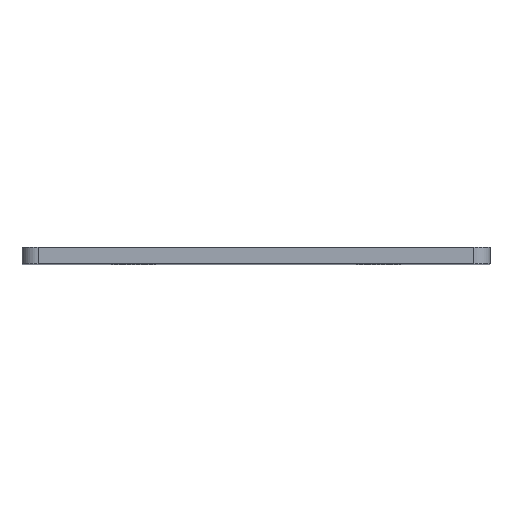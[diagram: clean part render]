
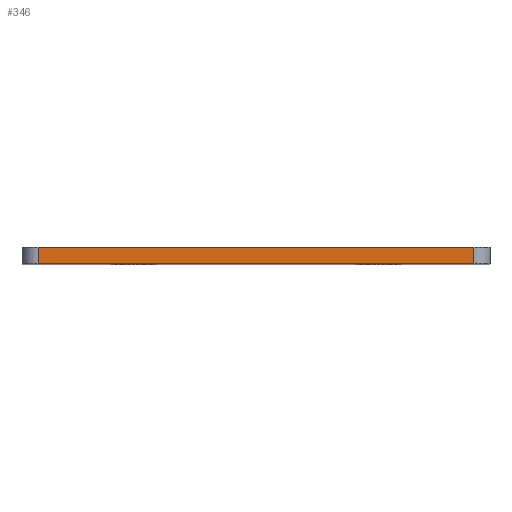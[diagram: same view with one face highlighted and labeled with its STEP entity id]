
A CAD part, top view. The second image highlights one B-rep face of the part: STEP entity #346.
In plain terms, the highlighted planar face has unit normal (0, 0, 1).
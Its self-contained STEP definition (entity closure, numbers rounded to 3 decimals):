
#12 = FACE_OUTER_BOUND ( 'NONE', #375, .T. ) ;
#46 = ORIENTED_EDGE ( 'NONE', *, *, #611, .T. ) ;
#58 = DIRECTION ( 'NONE',  ( 1., 0., 0. ) ) ;
#119 = ORIENTED_EDGE ( 'NONE', *, *, #283, .T. ) ;
#124 = CARTESIAN_POINT ( 'NONE',  ( -43., 0., 110.5 ) ) ;
#125 = CARTESIAN_POINT ( 'NONE',  ( -40., 3., 110.5 ) ) ;
#128 = LINE ( 'NONE', #124, #160 ) ;
#131 = VERTEX_POINT ( 'NONE', #618 ) ;
#156 = CARTESIAN_POINT ( 'NONE',  ( -43., 0., 110.5 ) ) ;
#160 = VECTOR ( 'NONE', #559, 1000. ) ;
#185 = CARTESIAN_POINT ( 'NONE',  ( -40., 0., 110.5 ) ) ;
#271 = DIRECTION ( 'NONE',  ( 0., 1., 0. ) ) ;
#283 = EDGE_CURVE ( 'NONE', #763, #311, #426, .T. ) ;
#311 = VERTEX_POINT ( 'NONE', #185 ) ;
#325 = DIRECTION ( 'NONE',  ( 0., -1., 0. ) ) ;
#346 = ADVANCED_FACE ( 'NONE', ( #12 ), #530, .T. ) ;
#354 = AXIS2_PLACEMENT_3D ( 'NONE', #156, #466, #588 ) ;
#360 = VECTOR ( 'NONE', #58, 1000. ) ;
#375 = EDGE_LOOP ( 'NONE', ( #382, #46, #770, #119 ) ) ;
#382 = ORIENTED_EDGE ( 'NONE', *, *, #498, .T. ) ;
#388 = CARTESIAN_POINT ( 'NONE',  ( 40., 0., 110.5 ) ) ;
#426 = LINE ( 'NONE', #701, #436 ) ;
#433 = CARTESIAN_POINT ( 'NONE',  ( 40., 0., 110.5 ) ) ;
#436 = VECTOR ( 'NONE', #325, 1000. ) ;
#466 = DIRECTION ( 'NONE',  ( 0., 0., 1. ) ) ;
#498 = EDGE_CURVE ( 'NONE', #311, #551, #128, .T. ) ;
#505 = EDGE_CURVE ( 'NONE', #763, #131, #565, .T. ) ;
#530 = PLANE ( 'NONE',  #354 ) ;
#551 = VERTEX_POINT ( 'NONE', #433 ) ;
#559 = DIRECTION ( 'NONE',  ( 1., 0., 0. ) ) ;
#565 = LINE ( 'NONE', #752, #360 ) ;
#588 = DIRECTION ( 'NONE',  ( 1., 0., 0. ) ) ;
#611 = EDGE_CURVE ( 'NONE', #551, #131, #713, .T. ) ;
#618 = CARTESIAN_POINT ( 'NONE',  ( 40., 3., 110.5 ) ) ;
#635 = VECTOR ( 'NONE', #271, 1000. ) ;
#701 = CARTESIAN_POINT ( 'NONE',  ( -40., 0., 110.5 ) ) ;
#713 = LINE ( 'NONE', #388, #635 ) ;
#752 = CARTESIAN_POINT ( 'NONE',  ( -43., 3., 110.5 ) ) ;
#763 = VERTEX_POINT ( 'NONE', #125 ) ;
#770 = ORIENTED_EDGE ( 'NONE', *, *, #505, .F. ) ;
